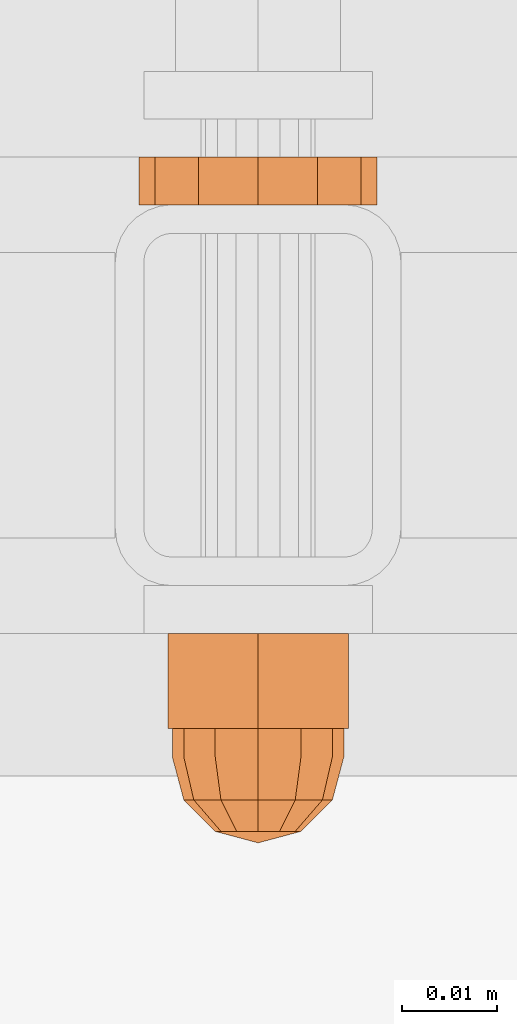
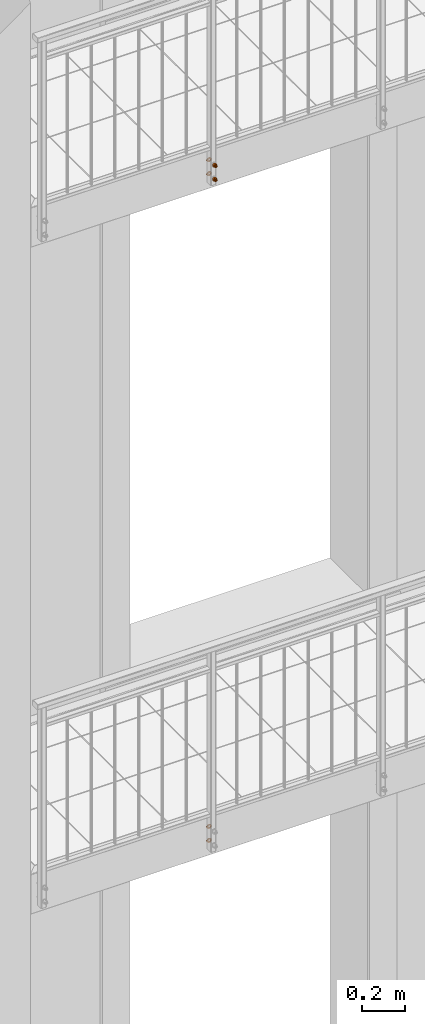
# One storey, part 117 of 162: 6 proxies.
"""IFC2X3 building model written with IfcOpenShell, lengths in millimetres."""

import ifcopenshell
import ifcopenshell.guid

model = None  # the IFC model being written
_history = None  # IfcOwnerHistory: only IFC2X3 demands one
_inside = {}  # id of a spatial element -> (the spatial element, [elements in it])
_under = {}  # id of a project, library or spatial element -> (it, [spatial elements below it])
_declared = {}  # id of a project -> (the project, [libraries it declares])
_typed = {}  # id of a type object -> (the type object, [elements of that type])
_made_of = {}  # id of a material, layer set ... -> (it, [elements and type objects made of it])


def new_model(schema):
    """Start an empty IFC model of exactly this schema.

    Asked for "IFC4X3", IfcOpenShell would pick the latest addendum, in which some entities
    have other attributes; the version numbers below select the first issue.
    IFC2X3 requires an IfcOwnerHistory on every rooted entity: one is made here for all.
    """
    global model, _history
    if schema == "IFC4X3":
        model = ifcopenshell.file(schema_version=(4, 3, 0, 0))
    else:
        model = ifcopenshell.file(schema=schema)
    _inside.clear()
    _under.clear()
    _declared.clear()
    _typed.clear()
    _made_of.clear()
    _history = None
    if model.schema == "IFC2X3":
        org = make("IfcOrganization", Name="unknown")
        user = make(
            "IfcPersonAndOrganization",
            ThePerson=make("IfcPerson", FamilyName="unknown"),
            TheOrganization=org,
        )
        app = make(
            "IfcApplication",
            ApplicationDeveloper=org,
            Version="unknown",
            ApplicationFullName="unknown",
            ApplicationIdentifier="unknown",
        )
        _history = make(
            "IfcOwnerHistory",
            OwningUser=user,
            OwningApplication=app,
            ChangeAction="ADDED",
            CreationDate=0,
        )
    return model


def make(cls, **values):
    """One entity of the class cls with the attributes given. An attribute that is None is left unset."""
    return model.create_entity(
        cls, **{name: value for name, value in values.items() if value is not None}
    )


def entity(cls, *values):
    """Any entity or typed value of the class cls, its attributes in the order of the schema. None: left unset."""
    e = model.create_entity(cls)
    for i, value in enumerate(values):
        if value is not None:
            e[i] = value
    return e


def rooted(cls, **values):
    """An entity with a GlobalId (a new one), such as an element, a storey or a relation."""
    return make(cls, GlobalId=ifcopenshell.guid.new(), OwnerHistory=_history, **values)


def si_unit(unit_type, name, prefix=None):
    """IfcSIUnit, for example si_unit("LENGTHUNIT", "METRE", prefix="MILLI")."""
    return make("IfcSIUnit", UnitType=unit_type, Prefix=prefix, Name=name)


def converted_unit(unit_type, name, factor, base, dimensions=None, offset=None):
    """IfcConversionBasedUnit, such as the inch: factor (a typed value) times the base unit."""
    return make(
        "IfcConversionBasedUnit"
        if offset is None
        else "IfcConversionBasedUnitWithOffset",
        ConversionOffset=offset,
        Dimensions=None
        if dimensions is None
        else entity("IfcDimensionalExponents", *dimensions),
        UnitType=unit_type,
        Name=name,
        ConversionFactor=make(
            "IfcMeasureWithUnit", ValueComponent=factor, UnitComponent=base
        ),
    )


def assignment(units):
    """IfcUnitAssignment: the units of a project."""
    return None if units is None else make("IfcUnitAssignment", Units=units)


def point(xyz):
    """IfcCartesianPoint."""
    return None if xyz is None else make("IfcCartesianPoint", Coordinates=xyz)


def direction(xyz):
    """IfcDirection."""
    return None if xyz is None else make("IfcDirection", DirectionRatios=xyz)


def frame(location, z_axis=None, x_axis=None):
    """IfcAxis2Placement3D, a coordinate frame: its origin and axes. An axis left out is left unset."""
    return make(
        "IfcAxis2Placement3D",
        Location=point(location),
        Axis=direction(z_axis),
        RefDirection=direction(x_axis),
    )


def origin_with_axes():
    """The frame at (0, 0, 0) with the z axis (0, 0, 1) and the x axis (1, 0, 0) written out."""
    return frame((0.0, 0.0, 0.0), z_axis=(0.0, 0.0, 1.0), x_axis=(1.0, 0.0, 0.0))


def place(relative_to, where):
    """IfcLocalPlacement: puts the frame where relative to a parent placement (None: the world)."""
    return make(
        "IfcLocalPlacement", PlacementRelTo=relative_to, RelativePlacement=where
    )


def context(
    kind, dimensions, precision=None, world=None, true_north=None, identifier=None
):
    """IfcGeometricRepresentationContext, for example the 3D "Model" context."""
    return make(
        "IfcGeometricRepresentationContext",
        ContextIdentifier=identifier,
        ContextType=kind,
        CoordinateSpaceDimension=dimensions,
        Precision=precision,
        WorldCoordinateSystem=world,
        TrueNorth=true_north,
    )


def project(units=None, contexts=None):
    """IfcProject with its units and contexts."""
    return rooted(
        "IfcProject",
        Name="project",
        RepresentationContexts=contexts,
        UnitsInContext=assignment(units),
    )


def spatial(cls, under=None, at=None, **own):
    """A site, building, storey or space (cls), placed at a placement, below another one or the project."""
    s = rooted(cls, ObjectPlacement=at, **own)
    if under is not None:
        _under.setdefault(under.id(), (under, []))[1].append(s)
    return s


def faces_of(points, faces, orient=None, outer=None):
    """IfcFace entities. A face is a list of loops; a loop is a list of indices into points, from 0.

    orient and outer hold one flag for each loop. By default every Orientation is true, the
    first loop of a face is its IfcFaceOuterBound and the others are IfcFaceBound.
    """
    made = []
    for i, loops in enumerate(faces):
        bounds = []
        for j, loop in enumerate(loops):
            is_outer = j == 0 if outer is None else outer[i][j]
            bounds.append(
                make(
                    "IfcFaceOuterBound" if is_outer else "IfcFaceBound",
                    Bound=make("IfcPolyLoop", Polygon=[points[k] for k in loop]),
                    Orientation=True if orient is None else orient[i][j],
                )
            )
        made.append(make("IfcFace", Bounds=bounds))
    return made


def faceted_brep(points, faces, orient=None, outer=None, voids=None):
    """IfcFacetedBrep: a solid bounded by flat faces; with voids (closed shells), ...WithVoids."""
    shared = [point(p) for p in points]
    hull = make("IfcClosedShell", CfsFaces=faces_of(shared, faces, orient, outer))
    if voids is None:
        return make("IfcFacetedBrep", Outer=hull)
    return make(
        "IfcFacetedBrepWithVoids",
        Outer=hull,
        Voids=[
            make(cls, CfsFaces=faces_of(shared, fs, o, b)) for cls, fs, o, b in voids
        ],
    )


def shape(context_of_items, identifier, shape_type, items):
    """IfcShapeRepresentation: the items that make up one representation, for example the "Body"."""
    return make(
        "IfcShapeRepresentation",
        ContextOfItems=context_of_items,
        RepresentationIdentifier=identifier,
        RepresentationType=shape_type,
        Items=items,
    )


def material(Name=None, Category=None):
    """IfcMaterial."""
    return make("IfcMaterial", Name=Name, Category=Category)


def made_of(thing, what):
    """Note that an element or type object is made of a material, layer set ...; save() writes the relation."""
    if what is not None:
        _made_of.setdefault(what.id(), (what, []))[1].append(thing)
    return thing


def element(
    cls,
    number,
    at=None,
    inside=None,
    cuts=None,
    type_object=None,
    material=None,
    context=None,
    identifier="Body",
    shape_type=None,
    held_by="IfcProductDefinitionShape",
    body=None,
    shapes=None,
    **own,
):
    """One element of the class cls, such as IfcWall. Its Tag is "e" and its number.

    at: its placement. inside: the storey or other place that contains it. cuts: it is an
    opening in that element (IfcRelVoidsElement). A single representation is given by context,
    identifier, shape_type and body (its items); several are given by shapes. held_by: the class
    of the entity that holds the representations. save() writes the other relations.
    """
    e = rooted(cls, Tag="e%d" % number, ObjectPlacement=at, **own)
    if body is not None:
        shapes = [shape(context, identifier, shape_type, body)]
    if shapes is not None:
        e.Representation = make(held_by, Representations=shapes)
    if inside is not None:
        _inside.setdefault(inside.id(), (inside, []))[1].append(e)
    if cuts is not None:
        rooted(
            "IfcRelVoidsElement", RelatingBuildingElement=cuts, RelatedOpeningElement=e
        )
    if type_object is not None:
        _typed.setdefault(type_object.id(), (type_object, []))[1].append(e)
    return made_of(e, material)


def aggregate(whole, parts):
    """IfcRelAggregates: a whole, such as a stair, and the parts it consists of."""
    return rooted("IfcRelAggregates", RelatingObject=whole, RelatedObjects=parts)


def save(model, path):
    """Write the relations noted so far, then the file.

    IfcRelAggregates (storeys below a building ...), IfcRelContainedInSpatialStructure (elements
    in a storey), IfcRelDefinesByType, IfcRelAssociatesMaterial and IfcRelDeclares: one each for
    every whole, place, type object, material and project.
    """
    for whole, parts in _under.values():
        aggregate(whole, parts)
    for where, things in _inside.values():
        rooted(
            "IfcRelContainedInSpatialStructure",
            RelatedElements=things,
            RelatingStructure=where,
        )
    for kind, things in _typed.values():
        rooted("IfcRelDefinesByType", RelatedObjects=things, RelatingType=kind)
    for what, things in _made_of.values():
        rooted("IfcRelAssociatesMaterial", RelatedObjects=things, RelatingMaterial=what)
    for by, libraries in _declared.values():
        rooted("IfcRelDeclares", RelatingContext=by, RelatedDefinitions=libraries)
    model.write(path)


model = new_model("IFC2X3")

# Units and contexts
model_context = context("Model", 3, precision=1e-09, world=origin_with_axes())
ifc_project = project(units=[si_unit("LENGTHUNIT", "METRE", prefix="MILLI"), si_unit("AREAUNIT", "SQUARE_METRE"), si_unit("VOLUMEUNIT", "CUBIC_METRE"), converted_unit("PLANEANGLEUNIT", "DEGREE", entity("IfcPlaneAngleMeasure", 0.01745329), si_unit("PLANEANGLEUNIT", "RADIAN"), dimensions=[0, 0, 0, 0, 0, 0, 0])], contexts=[model_context])

# Site, building, storey
site_placement = place(None, origin_with_axes())
site = spatial("IfcSite", under=ifc_project, at=site_placement, Name="Hermannstra?e 1a, 60318 Frankfurt", CompositionType="ELEMENT")
building_placement = place(site_placement, origin_with_axes())
building = spatial("IfcBuilding", under=site, at=building_placement, Name="Struktur 1", CompositionType="ELEMENT")
storey_placement = place(building_placement, origin_with_axes())
storey = spatial("IfcBuildingStorey", under=building, at=storey_placement, Name="Default Storey", CompositionType="ELEMENT", Elevation=0.0)

# Proxies
ifc_material = material(Name="Kein")
proxy_1_placement = place(None, origin_with_axes())
element("IfcBuildingElementProxy", 1, at=proxy_1_placement, inside=storey, material=ifc_material, ObjectType="-", context=model_context, shape_type="Brep", body=[
    faceted_brep([(3512.484047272, 1535.609373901, 3888.75), (3517.05936482, 1535.609373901, 3884.174682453), (3523.30936482, 1535.609373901, 3882.5), (3529.55936482, 1535.609373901, 3884.174682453), (3534.134682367, 1535.609373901, 3888.75), (3535.80936482, 1535.609373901, 3895.0), (3534.134682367, 1535.609373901, 3901.25), (3529.55936482, 1535.609373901, 3905.825317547), (3523.30936482, 1535.609373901, 3907.5), (3517.05936482, 1535.609373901, 3905.825317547), (3512.484047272, 1535.609373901, 3901.25), (3510.80936482, 1535.609373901, 3895.0), (3523.30936482, 1535.609373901, 3889.0), (3520.30936482, 1535.609373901, 3889.803847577), (3518.113212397, 1535.609373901, 3892.0), (3517.30936482, 1535.609373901, 3895.0), (3518.113212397, 1535.609373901, 3898.0), (3520.30936482, 1535.609373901, 3900.196152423), (3523.30936482, 1535.609373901, 3901.0), (3526.30936482, 1535.609373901, 3900.196152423), (3528.505517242, 1535.609373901, 3898.0), (3529.30936482, 1535.609373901, 3895.0), (3528.505517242, 1535.609373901, 3892.0), (3526.30936482, 1535.609373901, 3889.803847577), (3512.484047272, 1540.609373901, 3888.75), (3517.05936482, 1540.609373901, 3884.174682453), (3510.80936482, 1540.609373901, 3895.0), (3512.484047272, 1540.609373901, 3901.25), (3517.05936482, 1540.609373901, 3905.825317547), (3523.30936482, 1540.609373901, 3907.5), (3529.55936482, 1540.609373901, 3905.825317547), (3534.134682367, 1540.609373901, 3901.25), (3535.80936482, 1540.609373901, 3895.0), (3534.134682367, 1540.609373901, 3888.75), (3529.55936482, 1540.609373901, 3884.174682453), (3523.30936482, 1540.609373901, 3882.5), (3518.113212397, 1540.609373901, 3898.0), (3517.30936482, 1540.609373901, 3895.0), (3518.113212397, 1540.609373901, 3892.0), (3520.30936482, 1540.609373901, 3889.803847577), (3523.30936482, 1540.609373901, 3889.0), (3526.30936482, 1540.609373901, 3889.803847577), (3528.505517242, 1540.609373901, 3892.0), (3529.30936482, 1540.609373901, 3895.0), (3528.505517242, 1540.609373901, 3898.0), (3526.30936482, 1540.609373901, 3900.196152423), (3523.30936482, 1540.609373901, 3901.0), (3520.30936482, 1540.609373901, 3900.196152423)], [[[0, 1, 2, 3, 4, 5, 6, 7, 8, 9, 10, 11], [12, 13, 14, 15, 16, 17, 18, 19, 20, 21, 22, 23]], [[0, 24, 25, 1]], [[24, 26, 27, 28, 29, 30, 31, 32, 33, 34, 35, 25], [36, 37, 38, 39, 40, 41, 42, 43, 44, 45, 46, 47]], [[38, 14, 13, 39]], [[24, 0, 11, 26]], [[14, 38, 37, 15]], [[39, 13, 12, 40]], [[1, 25, 35, 2]], [[26, 11, 10, 27]], [[15, 37, 36, 16]], [[40, 12, 23, 41]], [[2, 35, 34, 3]], [[27, 10, 9, 28]], [[16, 36, 47, 17]], [[22, 42, 41, 23]], [[3, 34, 33, 4]], [[42, 22, 21, 43]], [[28, 9, 8, 29]], [[17, 47, 46, 18]], [[20, 44, 43, 21]], [[4, 33, 32, 5]], [[45, 19, 18, 46]], [[44, 20, 19, 45]], [[29, 8, 7, 30]], [[5, 32, 31, 6]], [[30, 7, 6, 31]]]),
])
proxy_2_placement = place(None, origin_with_axes())
element("IfcBuildingElementProxy", 2, at=proxy_2_placement, inside=storey, material=ifc_material, ObjectType="-", context=model_context, shape_type="Brep", body=[
    faceted_brep([(3512.484047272, 1535.609373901, 3808.75), (3517.05936482, 1535.609373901, 3804.174682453), (3523.30936482, 1535.609373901, 3802.5), (3529.55936482, 1535.609373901, 3804.174682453), (3534.134682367, 1535.609373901, 3808.75), (3535.80936482, 1535.609373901, 3815.0), (3534.134682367, 1535.609373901, 3821.25), (3529.55936482, 1535.609373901, 3825.825317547), (3523.30936482, 1535.609373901, 3827.5), (3517.05936482, 1535.609373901, 3825.825317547), (3512.484047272, 1535.609373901, 3821.25), (3510.80936482, 1535.609373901, 3815.0), (3523.30936482, 1535.609373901, 3809.0), (3520.30936482, 1535.609373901, 3809.803847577), (3518.113212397, 1535.609373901, 3812.0), (3517.30936482, 1535.609373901, 3815.0), (3518.113212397, 1535.609373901, 3818.0), (3520.30936482, 1535.609373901, 3820.196152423), (3523.30936482, 1535.609373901, 3821.0), (3526.30936482, 1535.609373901, 3820.196152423), (3528.505517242, 1535.609373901, 3818.0), (3529.30936482, 1535.609373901, 3815.0), (3528.505517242, 1535.609373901, 3812.0), (3526.30936482, 1535.609373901, 3809.803847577), (3512.484047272, 1540.609373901, 3808.75), (3517.05936482, 1540.609373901, 3804.174682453), (3510.80936482, 1540.609373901, 3815.0), (3512.484047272, 1540.609373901, 3821.25), (3517.05936482, 1540.609373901, 3825.825317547), (3523.30936482, 1540.609373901, 3827.5), (3529.55936482, 1540.609373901, 3825.825317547), (3534.134682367, 1540.609373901, 3821.25), (3535.80936482, 1540.609373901, 3815.0), (3534.134682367, 1540.609373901, 3808.75), (3529.55936482, 1540.609373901, 3804.174682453), (3523.30936482, 1540.609373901, 3802.5), (3518.113212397, 1540.609373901, 3818.0), (3517.30936482, 1540.609373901, 3815.0), (3518.113212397, 1540.609373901, 3812.0), (3520.30936482, 1540.609373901, 3809.803847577), (3523.30936482, 1540.609373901, 3809.0), (3526.30936482, 1540.609373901, 3809.803847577), (3528.505517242, 1540.609373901, 3812.0), (3529.30936482, 1540.609373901, 3815.0), (3528.505517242, 1540.609373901, 3818.0), (3526.30936482, 1540.609373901, 3820.196152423), (3523.30936482, 1540.609373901, 3821.0), (3520.30936482, 1540.609373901, 3820.196152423)], [[[0, 1, 2, 3, 4, 5, 6, 7, 8, 9, 10, 11], [12, 13, 14, 15, 16, 17, 18, 19, 20, 21, 22, 23]], [[0, 24, 25, 1]], [[24, 26, 27, 28, 29, 30, 31, 32, 33, 34, 35, 25], [36, 37, 38, 39, 40, 41, 42, 43, 44, 45, 46, 47]], [[38, 14, 13, 39]], [[24, 0, 11, 26]], [[14, 38, 37, 15]], [[39, 13, 12, 40]], [[1, 25, 35, 2]], [[26, 11, 10, 27]], [[15, 37, 36, 16]], [[40, 12, 23, 41]], [[2, 35, 34, 3]], [[27, 10, 9, 28]], [[16, 36, 47, 17]], [[22, 42, 41, 23]], [[3, 34, 33, 4]], [[42, 22, 21, 43]], [[28, 9, 8, 29]], [[17, 47, 46, 18]], [[20, 44, 43, 21]], [[4, 33, 32, 5]], [[45, 19, 18, 46]], [[44, 20, 19, 45]], [[29, 8, 7, 30]], [[5, 32, 31, 6]], [[30, 7, 6, 31]]]),
])
proxy_3_placement = place(None, origin_with_axes())
element("IfcBuildingElementProxy", 3, at=proxy_3_placement, inside=storey, material=ifc_material, ObjectType="-", context=model_context, shape_type="Brep", body=[
    faceted_brep([(3512.484047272, 1535.609373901, 7633.75), (3517.05936482, 1535.609373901, 7629.174682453), (3523.30936482, 1535.609373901, 7627.5), (3529.55936482, 1535.609373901, 7629.174682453), (3534.134682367, 1535.609373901, 7633.75), (3535.80936482, 1535.609373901, 7640.0), (3534.134682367, 1535.609373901, 7646.25), (3529.55936482, 1535.609373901, 7650.825317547), (3523.30936482, 1535.609373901, 7652.5), (3517.05936482, 1535.609373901, 7650.825317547), (3512.484047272, 1535.609373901, 7646.25), (3510.80936482, 1535.609373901, 7640.0), (3523.30936482, 1535.609373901, 7634.0), (3520.30936482, 1535.609373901, 7634.803847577), (3518.113212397, 1535.609373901, 7637.0), (3517.30936482, 1535.609373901, 7640.0), (3518.113212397, 1535.609373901, 7643.0), (3520.30936482, 1535.609373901, 7645.196152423), (3523.30936482, 1535.609373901, 7646.0), (3526.30936482, 1535.609373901, 7645.196152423), (3528.505517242, 1535.609373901, 7643.0), (3529.30936482, 1535.609373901, 7640.0), (3528.505517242, 1535.609373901, 7637.0), (3526.30936482, 1535.609373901, 7634.803847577), (3512.484047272, 1540.609373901, 7633.75), (3517.05936482, 1540.609373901, 7629.174682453), (3510.80936482, 1540.609373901, 7640.0), (3512.484047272, 1540.609373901, 7646.25), (3517.05936482, 1540.609373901, 7650.825317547), (3523.30936482, 1540.609373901, 7652.5), (3529.55936482, 1540.609373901, 7650.825317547), (3534.134682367, 1540.609373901, 7646.25), (3535.80936482, 1540.609373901, 7640.0), (3534.134682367, 1540.609373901, 7633.75), (3529.55936482, 1540.609373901, 7629.174682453), (3523.30936482, 1540.609373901, 7627.5), (3518.113212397, 1540.609373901, 7643.0), (3517.30936482, 1540.609373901, 7640.0), (3518.113212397, 1540.609373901, 7637.0), (3520.30936482, 1540.609373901, 7634.803847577), (3523.30936482, 1540.609373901, 7634.0), (3526.30936482, 1540.609373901, 7634.803847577), (3528.505517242, 1540.609373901, 7637.0), (3529.30936482, 1540.609373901, 7640.0), (3528.505517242, 1540.609373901, 7643.0), (3526.30936482, 1540.609373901, 7645.196152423), (3523.30936482, 1540.609373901, 7646.0), (3520.30936482, 1540.609373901, 7645.196152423)], [[[0, 1, 2, 3, 4, 5, 6, 7, 8, 9, 10, 11], [12, 13, 14, 15, 16, 17, 18, 19, 20, 21, 22, 23]], [[0, 24, 25, 1]], [[24, 26, 27, 28, 29, 30, 31, 32, 33, 34, 35, 25], [36, 37, 38, 39, 40, 41, 42, 43, 44, 45, 46, 47]], [[38, 14, 13, 39]], [[24, 0, 11, 26]], [[14, 38, 37, 15]], [[39, 13, 12, 40]], [[1, 25, 35, 2]], [[26, 11, 10, 27]], [[15, 37, 36, 16]], [[40, 12, 23, 41]], [[2, 35, 34, 3]], [[27, 10, 9, 28]], [[16, 36, 47, 17]], [[22, 42, 41, 23]], [[3, 34, 33, 4]], [[42, 22, 21, 43]], [[28, 9, 8, 29]], [[17, 47, 46, 18]], [[20, 44, 43, 21]], [[4, 33, 32, 5]], [[45, 19, 18, 46]], [[44, 20, 19, 45]], [[29, 8, 7, 30]], [[5, 32, 31, 6]], [[30, 7, 6, 31]]]),
])
proxy_4_placement = place(None, origin_with_axes())
element("IfcBuildingElementProxy", 4, at=proxy_4_placement, inside=storey, material=ifc_material, ObjectType="-", context=model_context, shape_type="Brep", body=[
    faceted_brep([(3512.484047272, 1535.609373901, 7713.75), (3517.05936482, 1535.609373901, 7709.174682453), (3523.30936482, 1535.609373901, 7707.5), (3529.55936482, 1535.609373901, 7709.174682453), (3534.134682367, 1535.609373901, 7713.75), (3535.80936482, 1535.609373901, 7720.0), (3534.134682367, 1535.609373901, 7726.25), (3529.55936482, 1535.609373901, 7730.825317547), (3523.30936482, 1535.609373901, 7732.5), (3517.05936482, 1535.609373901, 7730.825317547), (3512.484047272, 1535.609373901, 7726.25), (3510.80936482, 1535.609373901, 7720.0), (3523.30936482, 1535.609373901, 7714.0), (3520.30936482, 1535.609373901, 7714.803847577), (3518.113212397, 1535.609373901, 7717.0), (3517.30936482, 1535.609373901, 7720.0), (3518.113212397, 1535.609373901, 7723.0), (3520.30936482, 1535.609373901, 7725.196152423), (3523.30936482, 1535.609373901, 7726.0), (3526.30936482, 1535.609373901, 7725.196152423), (3528.505517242, 1535.609373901, 7723.0), (3529.30936482, 1535.609373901, 7720.0), (3528.505517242, 1535.609373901, 7717.0), (3526.30936482, 1535.609373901, 7714.803847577), (3512.484047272, 1540.609373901, 7713.75), (3517.05936482, 1540.609373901, 7709.174682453), (3510.80936482, 1540.609373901, 7720.0), (3512.484047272, 1540.609373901, 7726.25), (3517.05936482, 1540.609373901, 7730.825317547), (3523.30936482, 1540.609373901, 7732.5), (3529.55936482, 1540.609373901, 7730.825317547), (3534.134682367, 1540.609373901, 7726.25), (3535.80936482, 1540.609373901, 7720.0), (3534.134682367, 1540.609373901, 7713.75), (3529.55936482, 1540.609373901, 7709.174682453), (3523.30936482, 1540.609373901, 7707.5), (3518.113212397, 1540.609373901, 7723.0), (3517.30936482, 1540.609373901, 7720.0), (3518.113212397, 1540.609373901, 7717.0), (3520.30936482, 1540.609373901, 7714.803847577), (3523.30936482, 1540.609373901, 7714.0), (3526.30936482, 1540.609373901, 7714.803847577), (3528.505517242, 1540.609373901, 7717.0), (3529.30936482, 1540.609373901, 7720.0), (3528.505517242, 1540.609373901, 7723.0), (3526.30936482, 1540.609373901, 7725.196152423), (3523.30936482, 1540.609373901, 7726.0), (3520.30936482, 1540.609373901, 7725.196152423)], [[[0, 1, 2, 3, 4, 5, 6, 7, 8, 9, 10, 11], [12, 13, 14, 15, 16, 17, 18, 19, 20, 21, 22, 23]], [[0, 24, 25, 1]], [[24, 26, 27, 28, 29, 30, 31, 32, 33, 34, 35, 25], [36, 37, 38, 39, 40, 41, 42, 43, 44, 45, 46, 47]], [[38, 14, 13, 39]], [[24, 0, 11, 26]], [[14, 38, 37, 15]], [[39, 13, 12, 40]], [[1, 25, 35, 2]], [[26, 11, 10, 27]], [[15, 37, 36, 16]], [[40, 12, 23, 41]], [[2, 35, 34, 3]], [[27, 10, 9, 28]], [[16, 36, 47, 17]], [[22, 42, 41, 23]], [[3, 34, 33, 4]], [[42, 22, 21, 43]], [[28, 9, 8, 29]], [[17, 47, 46, 18]], [[20, 44, 43, 21]], [[4, 33, 32, 5]], [[45, 19, 18, 46]], [[44, 20, 19, 45]], [[29, 8, 7, 30]], [[5, 32, 31, 6]], [[30, 7, 6, 31]]]),
])
proxy_5_placement = place(None, origin_with_axes())
element("IfcBuildingElementProxy", 5, at=proxy_5_placement, inside=storey, material=ifc_material, ObjectType="-", context=model_context, shape_type="Brep", body=[
    faceted_brep([(3517.30936482, 1490.609373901, 7720.0), (3517.30936482, 1480.609373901, 7720.0), (3518.113212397, 1480.609373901, 7717.0), (3518.113212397, 1490.609373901, 7717.0), (3520.30936482, 1480.609373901, 7714.803847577), (3520.30936482, 1490.609373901, 7714.803847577), (3518.113212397, 1490.609373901, 7723.0), (3518.113212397, 1480.609373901, 7723.0), (3513.829495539, 1490.609373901, 7725.473205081), (3523.30936482, 1490.609373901, 7730.946410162), (3532.7892341, 1490.609373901, 7725.473205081), (3532.7892341, 1490.609373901, 7714.526794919), (3523.30936482, 1490.609373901, 7709.053589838), (3513.829495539, 1490.609373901, 7714.526794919), (3520.30936482, 1490.609373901, 7725.196152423), (3523.30936482, 1490.609373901, 7714.0), (3526.30936482, 1490.609373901, 7714.803847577), (3528.505517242, 1490.609373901, 7717.0), (3529.30936482, 1490.609373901, 7720.0), (3528.505517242, 1490.609373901, 7723.0), (3526.30936482, 1490.609373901, 7725.196152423), (3523.30936482, 1490.609373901, 7726.0), (3523.30936482, 1480.609373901, 7730.946410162), (3513.829495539, 1480.609373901, 7725.473205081), (3513.829495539, 1480.609373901, 7714.526794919), (3523.30936482, 1480.609373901, 7709.053589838), (3532.7892341, 1480.609373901, 7714.526794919), (3532.7892341, 1480.609373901, 7725.473205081), (3520.30936482, 1480.609373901, 7725.196152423), (3523.30936482, 1480.609373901, 7726.0), (3526.30936482, 1480.609373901, 7725.196152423), (3528.505517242, 1480.609373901, 7723.0), (3529.30936482, 1480.609373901, 7720.0), (3528.505517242, 1480.609373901, 7717.0), (3526.30936482, 1480.609373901, 7714.803847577), (3523.30936482, 1480.609373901, 7714.0)], [[[0, 1, 2, 3]], [[3, 2, 4, 5]], [[1, 0, 6, 7]], [[8, 9, 10, 11, 12, 13], [14, 6, 0, 3, 5, 15, 16, 17, 18, 19, 20, 21]], [[22, 23, 24, 25, 26, 27], [1, 7, 28, 29, 30, 31, 32, 33, 34, 35, 4, 2]], [[7, 6, 14, 28]], [[24, 23, 8, 13]], [[5, 4, 35, 15]], [[13, 12, 25, 24]], [[28, 14, 21, 29]], [[23, 22, 9, 8]], [[15, 35, 34, 16]], [[12, 11, 26, 25]], [[29, 21, 20, 30]], [[22, 27, 10, 9]], [[16, 34, 33, 17]], [[27, 26, 11, 10]], [[30, 20, 19, 31]], [[17, 33, 32, 18]], [[31, 19, 18, 32]]]),
    faceted_brep([(3523.30936482, 1480.609373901, 7729.0), (3523.30936482, 1477.609373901, 7729.0), (3527.80936482, 1477.609373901, 7727.794228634), (3527.80936482, 1480.609373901, 7727.794228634), (3518.80936482, 1480.609373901, 7727.794228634), (3518.80936482, 1477.609373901, 7727.794228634), (3515.515136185, 1477.609373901, 7715.5), (3518.80936482, 1477.609373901, 7712.205771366), (3523.30936482, 1477.609373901, 7711.0), (3527.80936482, 1477.609373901, 7712.205771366), (3531.103593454, 1477.609373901, 7715.5), (3532.30936482, 1477.609373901, 7720.0), (3531.103593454, 1477.609373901, 7724.5), (3515.515136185, 1477.609373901, 7724.5), (3514.30936482, 1477.609373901, 7720.0), (3531.103593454, 1480.609373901, 7715.5), (3527.80936482, 1480.609373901, 7712.205771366), (3523.30936482, 1480.609373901, 7711.0), (3518.80936482, 1480.609373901, 7712.205771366), (3515.515136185, 1480.609373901, 7715.5), (3514.30936482, 1480.609373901, 7720.0), (3515.515136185, 1480.609373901, 7724.5), (3531.103593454, 1480.609373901, 7724.5), (3532.30936482, 1480.609373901, 7720.0)], [[[0, 1, 2, 3]], [[1, 0, 4, 5]], [[6, 7, 8, 9, 10, 11, 12, 2, 1, 5, 13, 14]], [[15, 16, 17, 18, 19, 20, 21, 4, 0, 3, 22, 23]], [[3, 2, 12, 22]], [[5, 4, 21, 13]], [[22, 12, 11, 23]], [[13, 21, 20, 14]], [[7, 18, 17, 8]], [[19, 6, 14, 20]], [[18, 7, 6, 19]], [[23, 11, 10, 15]], [[8, 17, 16, 9]], [[15, 10, 9, 16]]]),
    faceted_brep([(3515.515136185, 1477.609373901, 7724.5), (3516.55936482, 1473.109373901, 7723.897114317), (3519.412250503, 1473.109373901, 7726.75), (3518.80936482, 1477.609373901, 7727.794228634), (3531.103593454, 1477.609373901, 7715.5), (3527.80936482, 1477.609373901, 7712.205771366), (3523.30936482, 1477.609373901, 7711.0), (3518.80936482, 1477.609373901, 7712.205771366), (3515.515136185, 1477.609373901, 7715.5), (3514.30936482, 1477.609373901, 7720.0), (3523.30936482, 1477.609373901, 7729.0), (3527.80936482, 1477.609373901, 7727.794228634), (3531.103593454, 1477.609373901, 7724.5), (3532.30936482, 1477.609373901, 7720.0), (3523.30936482, 1473.109373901, 7727.794228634), (3515.515136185, 1473.109373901, 7720.0), (3518.80936482, 1469.815145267, 7720.0), (3519.412250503, 1469.815145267, 7722.25), (3527.206479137, 1473.109373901, 7726.75), (3521.05936482, 1469.815145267, 7723.897114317), (3516.55936482, 1473.109373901, 7716.102885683), (3519.412250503, 1469.815145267, 7717.75), (3523.30936482, 1469.815145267, 7724.5), (3523.30936482, 1468.609373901, 7720.0), (3519.412250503, 1473.109373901, 7713.25), (3521.05936482, 1469.815145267, 7716.102885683), (3523.30936482, 1473.109373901, 7712.205771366), (3530.05936482, 1473.109373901, 7723.897114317), (3525.55936482, 1469.815145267, 7723.897114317), (3523.30936482, 1469.815145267, 7715.5), (3527.206479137, 1473.109373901, 7713.25), (3525.55936482, 1469.815145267, 7716.102885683), (3531.103593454, 1473.109373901, 7720.0), (3527.206479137, 1469.815145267, 7722.25), (3530.05936482, 1473.109373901, 7716.102885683), (3527.206479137, 1469.815145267, 7717.75), (3527.80936482, 1469.815145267, 7720.0)], [[[0, 1, 2, 3]], [[4, 5, 6, 7, 8, 9, 0, 3, 10, 11, 12, 13]], [[3, 2, 14, 10]], [[15, 16, 17, 1]], [[1, 0, 9, 15]], [[10, 14, 18, 11]], [[1, 17, 19, 2]], [[16, 15, 20, 21]], [[2, 19, 22, 14]], [[23, 17, 16]], [[24, 25, 21, 20]], [[23, 16, 21]], [[24, 7, 6, 26]], [[20, 8, 7, 24]], [[15, 9, 8, 20]], [[11, 18, 27, 12]], [[14, 22, 28, 18]], [[23, 19, 17]], [[26, 29, 25, 24]], [[23, 21, 25]], [[23, 22, 19]], [[26, 6, 5, 30]], [[29, 26, 30, 31]], [[23, 25, 29]], [[12, 27, 32, 13]], [[18, 28, 33, 27]], [[23, 28, 22]], [[23, 29, 31]], [[23, 33, 28]], [[30, 5, 4, 34]], [[31, 30, 34, 35]], [[23, 31, 35]], [[13, 32, 34, 4]], [[27, 33, 36, 32]], [[23, 36, 33]], [[23, 35, 36]], [[35, 34, 32, 36]]]),
])
proxy_6_placement = place(None, origin_with_axes())
element("IfcBuildingElementProxy", 6, at=proxy_6_placement, inside=storey, material=ifc_material, ObjectType="-", context=model_context, shape_type="Brep", body=[
    faceted_brep([(3517.30936482, 1490.609373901, 7640.0), (3517.30936482, 1480.609373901, 7640.0), (3518.113212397, 1480.609373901, 7637.0), (3518.113212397, 1490.609373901, 7637.0), (3520.30936482, 1480.609373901, 7634.803847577), (3520.30936482, 1490.609373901, 7634.803847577), (3518.113212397, 1490.609373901, 7643.0), (3518.113212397, 1480.609373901, 7643.0), (3513.829495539, 1490.609373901, 7645.473205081), (3523.30936482, 1490.609373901, 7650.946410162), (3532.7892341, 1490.609373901, 7645.473205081), (3532.7892341, 1490.609373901, 7634.526794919), (3523.30936482, 1490.609373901, 7629.053589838), (3513.829495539, 1490.609373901, 7634.526794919), (3520.30936482, 1490.609373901, 7645.196152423), (3523.30936482, 1490.609373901, 7634.0), (3526.30936482, 1490.609373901, 7634.803847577), (3528.505517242, 1490.609373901, 7637.0), (3529.30936482, 1490.609373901, 7640.0), (3528.505517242, 1490.609373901, 7643.0), (3526.30936482, 1490.609373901, 7645.196152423), (3523.30936482, 1490.609373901, 7646.0), (3523.30936482, 1480.609373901, 7650.946410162), (3513.829495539, 1480.609373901, 7645.473205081), (3513.829495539, 1480.609373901, 7634.526794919), (3523.30936482, 1480.609373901, 7629.053589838), (3532.7892341, 1480.609373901, 7634.526794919), (3532.7892341, 1480.609373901, 7645.473205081), (3520.30936482, 1480.609373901, 7645.196152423), (3523.30936482, 1480.609373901, 7646.0), (3526.30936482, 1480.609373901, 7645.196152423), (3528.505517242, 1480.609373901, 7643.0), (3529.30936482, 1480.609373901, 7640.0), (3528.505517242, 1480.609373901, 7637.0), (3526.30936482, 1480.609373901, 7634.803847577), (3523.30936482, 1480.609373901, 7634.0)], [[[0, 1, 2, 3]], [[3, 2, 4, 5]], [[1, 0, 6, 7]], [[8, 9, 10, 11, 12, 13], [14, 6, 0, 3, 5, 15, 16, 17, 18, 19, 20, 21]], [[22, 23, 24, 25, 26, 27], [1, 7, 28, 29, 30, 31, 32, 33, 34, 35, 4, 2]], [[7, 6, 14, 28]], [[24, 23, 8, 13]], [[5, 4, 35, 15]], [[13, 12, 25, 24]], [[28, 14, 21, 29]], [[23, 22, 9, 8]], [[15, 35, 34, 16]], [[12, 11, 26, 25]], [[29, 21, 20, 30]], [[22, 27, 10, 9]], [[16, 34, 33, 17]], [[27, 26, 11, 10]], [[30, 20, 19, 31]], [[17, 33, 32, 18]], [[31, 19, 18, 32]]]),
    faceted_brep([(3523.30936482, 1480.609373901, 7649.0), (3523.30936482, 1477.609373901, 7649.0), (3527.80936482, 1477.609373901, 7647.794228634), (3527.80936482, 1480.609373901, 7647.794228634), (3518.80936482, 1480.609373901, 7647.794228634), (3518.80936482, 1477.609373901, 7647.794228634), (3515.515136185, 1477.609373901, 7635.5), (3518.80936482, 1477.609373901, 7632.205771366), (3523.30936482, 1477.609373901, 7631.0), (3527.80936482, 1477.609373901, 7632.205771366), (3531.103593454, 1477.609373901, 7635.5), (3532.30936482, 1477.609373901, 7640.0), (3531.103593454, 1477.609373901, 7644.5), (3515.515136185, 1477.609373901, 7644.5), (3514.30936482, 1477.609373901, 7640.0), (3531.103593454, 1480.609373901, 7635.5), (3527.80936482, 1480.609373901, 7632.205771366), (3523.30936482, 1480.609373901, 7631.0), (3518.80936482, 1480.609373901, 7632.205771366), (3515.515136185, 1480.609373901, 7635.5), (3514.30936482, 1480.609373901, 7640.0), (3515.515136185, 1480.609373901, 7644.5), (3531.103593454, 1480.609373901, 7644.5), (3532.30936482, 1480.609373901, 7640.0)], [[[0, 1, 2, 3]], [[1, 0, 4, 5]], [[6, 7, 8, 9, 10, 11, 12, 2, 1, 5, 13, 14]], [[15, 16, 17, 18, 19, 20, 21, 4, 0, 3, 22, 23]], [[3, 2, 12, 22]], [[5, 4, 21, 13]], [[22, 12, 11, 23]], [[13, 21, 20, 14]], [[7, 18, 17, 8]], [[19, 6, 14, 20]], [[18, 7, 6, 19]], [[23, 11, 10, 15]], [[8, 17, 16, 9]], [[15, 10, 9, 16]]]),
    faceted_brep([(3515.515136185, 1477.609373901, 7644.5), (3516.55936482, 1473.109373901, 7643.897114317), (3519.412250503, 1473.109373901, 7646.75), (3518.80936482, 1477.609373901, 7647.794228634), (3531.103593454, 1477.609373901, 7635.5), (3527.80936482, 1477.609373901, 7632.205771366), (3523.30936482, 1477.609373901, 7631.0), (3518.80936482, 1477.609373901, 7632.205771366), (3515.515136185, 1477.609373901, 7635.5), (3514.30936482, 1477.609373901, 7640.0), (3523.30936482, 1477.609373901, 7649.0), (3527.80936482, 1477.609373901, 7647.794228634), (3531.103593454, 1477.609373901, 7644.5), (3532.30936482, 1477.609373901, 7640.0), (3523.30936482, 1473.109373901, 7647.794228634), (3515.515136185, 1473.109373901, 7640.0), (3518.80936482, 1469.815145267, 7640.0), (3519.412250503, 1469.815145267, 7642.25), (3527.206479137, 1473.109373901, 7646.75), (3521.05936482, 1469.815145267, 7643.897114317), (3516.55936482, 1473.109373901, 7636.102885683), (3519.412250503, 1469.815145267, 7637.75), (3523.30936482, 1469.815145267, 7644.5), (3523.30936482, 1468.609373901, 7640.0), (3519.412250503, 1473.109373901, 7633.25), (3521.05936482, 1469.815145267, 7636.102885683), (3523.30936482, 1473.109373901, 7632.205771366), (3530.05936482, 1473.109373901, 7643.897114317), (3525.55936482, 1469.815145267, 7643.897114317), (3523.30936482, 1469.815145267, 7635.5), (3527.206479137, 1473.109373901, 7633.25), (3525.55936482, 1469.815145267, 7636.102885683), (3531.103593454, 1473.109373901, 7640.0), (3527.206479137, 1469.815145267, 7642.25), (3530.05936482, 1473.109373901, 7636.102885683), (3527.206479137, 1469.815145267, 7637.75), (3527.80936482, 1469.815145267, 7640.0)], [[[0, 1, 2, 3]], [[4, 5, 6, 7, 8, 9, 0, 3, 10, 11, 12, 13]], [[3, 2, 14, 10]], [[15, 16, 17, 1]], [[1, 0, 9, 15]], [[10, 14, 18, 11]], [[1, 17, 19, 2]], [[16, 15, 20, 21]], [[2, 19, 22, 14]], [[23, 17, 16]], [[24, 25, 21, 20]], [[23, 16, 21]], [[24, 7, 6, 26]], [[20, 8, 7, 24]], [[15, 9, 8, 20]], [[11, 18, 27, 12]], [[14, 22, 28, 18]], [[23, 19, 17]], [[26, 29, 25, 24]], [[23, 21, 25]], [[23, 22, 19]], [[26, 6, 5, 30]], [[29, 26, 30, 31]], [[23, 25, 29]], [[12, 27, 32, 13]], [[18, 28, 33, 27]], [[23, 28, 22]], [[23, 29, 31]], [[23, 33, 28]], [[30, 5, 4, 34]], [[31, 30, 34, 35]], [[23, 31, 35]], [[13, 32, 34, 4]], [[27, 33, 36, 32]], [[23, 36, 33]], [[23, 35, 36]], [[35, 34, 32, 36]]]),
])

save(model, "model.ifc")
